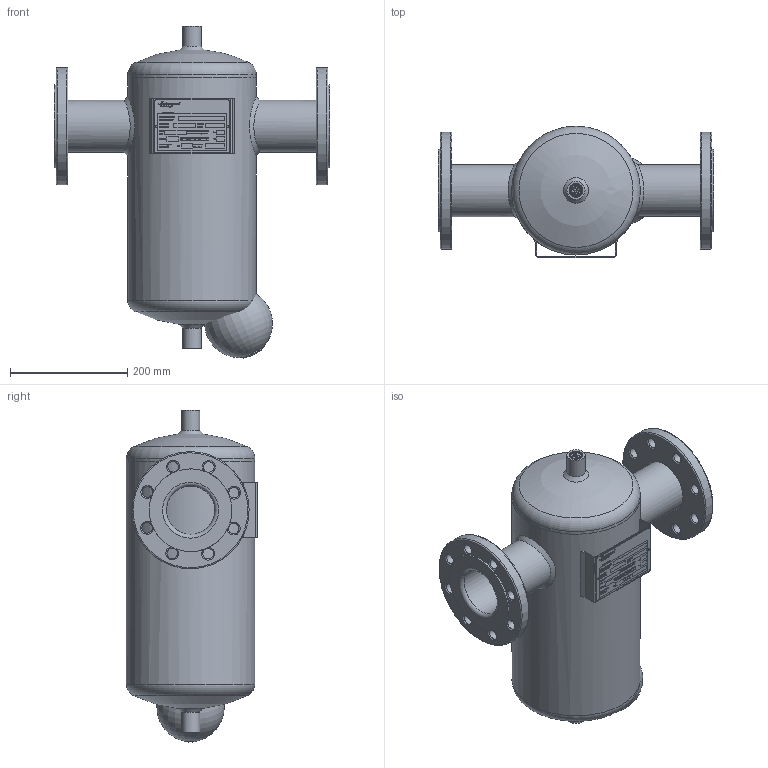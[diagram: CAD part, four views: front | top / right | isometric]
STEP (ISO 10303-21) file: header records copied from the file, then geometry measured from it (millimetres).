
FILE_DESCRIPTION(/* description */ ('Unknown'),/* implementation_level */ '2;1');
FILE_NAME(/* name */ 'DFL80',/* time_stamp */ '2020-01-28T14:42:08+01:00',/* author */ ('Unknown'),/* organization */ ('Unknown'),/* preprocessor_version */ 'ST-DEVELOPER v16.7',/* originating_system */ 'DEX',/* authorisation */ $);
FILE_SCHEMA (('AUTOMOTIVE_DESIGN {1 0 10303 214 3 1 1}'));
Length unit declared in the file: millimetre
Products named in the file (1): DFL80
Bounding box: 470 x 224.05 x 566.46 mm (x, y, z)
Volume: 17213831.6 mm3; surface area: 866623.1 mm2
Topology: 2 solids, 3 shells, 3113 faces, 7777 edges, 5153 vertices
Faces by surface type: plane 2156, bspline 803, cylinder 80, torus 51, cone 19, sphere 4
Full cylindrical faces by diameter (mm): 3.8 x2, 4.917 x1, 9.231 x1, 18 x16, 19 x1, 31.17 x4, 34.1 x1, 37 x1, 40 x1, 40.2 x1, 48 x1, 49 x1, 52 x1, 62 x1, 65 x1, 82.5 x2, 88.9 x2, 90.5 x2, 141 x2, 200 x2, 219.1 x2
Entity records: 159453 total; most frequent: CARTESIAN_POINT 73053, ORIENTED_EDGE 15090, DIRECTION 9018, EDGE_CURVE 7545, VERTEX_POINT 5106, LINE 3844, VECTOR 3844, FACE_BOUND 3815
